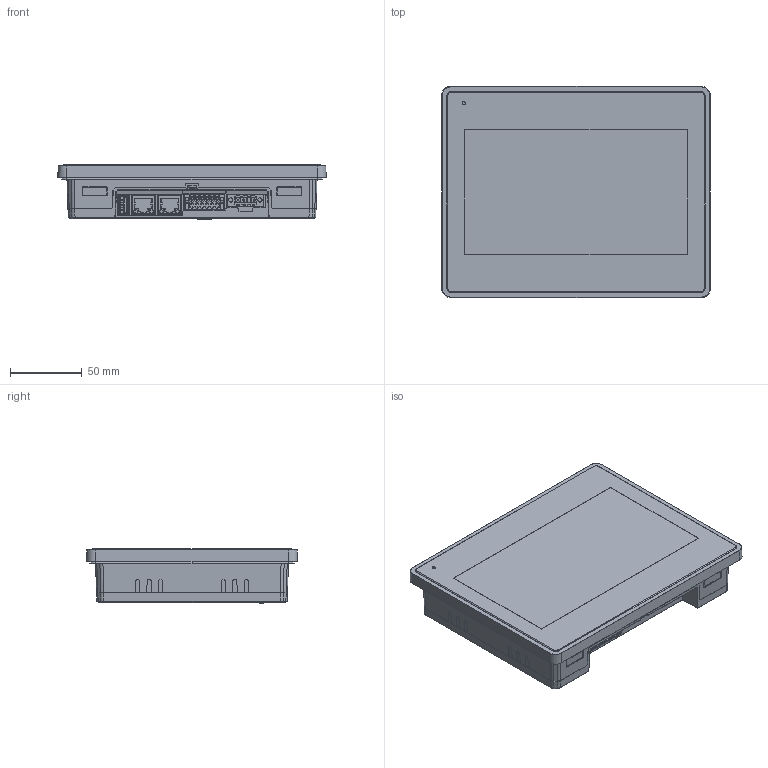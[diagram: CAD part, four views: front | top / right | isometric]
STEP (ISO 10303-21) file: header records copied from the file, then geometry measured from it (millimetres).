
FILE_DESCRIPTION (( 'STEP AP214' ), '1' );
FILE_NAME ('HMeX207 Standard.STEP', '2024-02-16T08:21:32', ( '' ), ( '' ), 'SwSTEP 2.0', 'SolidWorks 2023', '' );
FILE_SCHEMA (( 'AUTOMOTIVE_DESIGN' ));
Products named in the file (1): HMeX207 Standard
Bounding box: 187.56 x 147.56 x 38 mm (x, y, z)
Volume: 859902.4 mm3; surface area: 106132.7 mm2
Topology: 1 solids, 20 shells, 3604 faces, 9553 edges, 6069 vertices
Faces by surface type: plane 2219, cylinder 611, bspline 346, cone 214, torus 174, sphere 40
Entity records: 119746 total; most frequent: CARTESIAN_POINT 32781, ORIENTED_EDGE 19040, DIRECTION 16543, EDGE_CURVE 9520, VECTOR 6707, LINE 6707, VERTEX_POINT 6069, AXIS2_PLACEMENT_3D 4918
